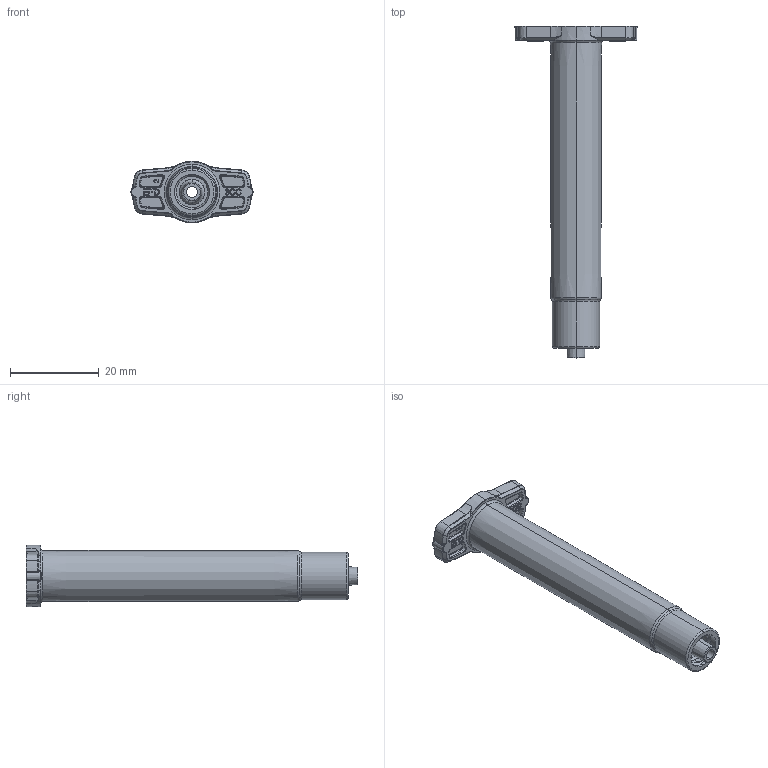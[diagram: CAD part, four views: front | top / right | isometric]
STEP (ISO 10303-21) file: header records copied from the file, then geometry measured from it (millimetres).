
FILE_DESCRIPTION (( 'STEP AP214' ), '1' );
FILE_NAME ('NORDSONEFD-7012015 BARREL O 3CC BK.STEP', '2019-01-30T12:21:28', ( '' ), ( '' ), 'SwSTEP 2.0', 'SolidWorks 2019', '' );
FILE_SCHEMA (( 'AUTOMOTIVE_DESIGN' ));
Length unit declared in the file: inch
Products named in the file (1): NORDSONEFD-7012015 BARREL O 3CC BK
Bounding box: 27.57 x 74.93 x 13.97 mm (x, y, z)
Volume: 3069.1 mm3; surface area: 5534.8 mm2
Topology: 1 solids, 1 shells, 394 faces, 932 edges, 551 vertices
Faces by surface type: bspline 131, torus 88, plane 80, cylinder 50, cone 45
Entity records: 15753 total; most frequent: CARTESIAN_POINT 7505, ORIENTED_EDGE 1856, DIRECTION 1529, EDGE_CURVE 928, AXIS2_PLACEMENT_3D 617, VERTEX_POINT 551, EDGE_LOOP 411, ADVANCED_FACE 394
